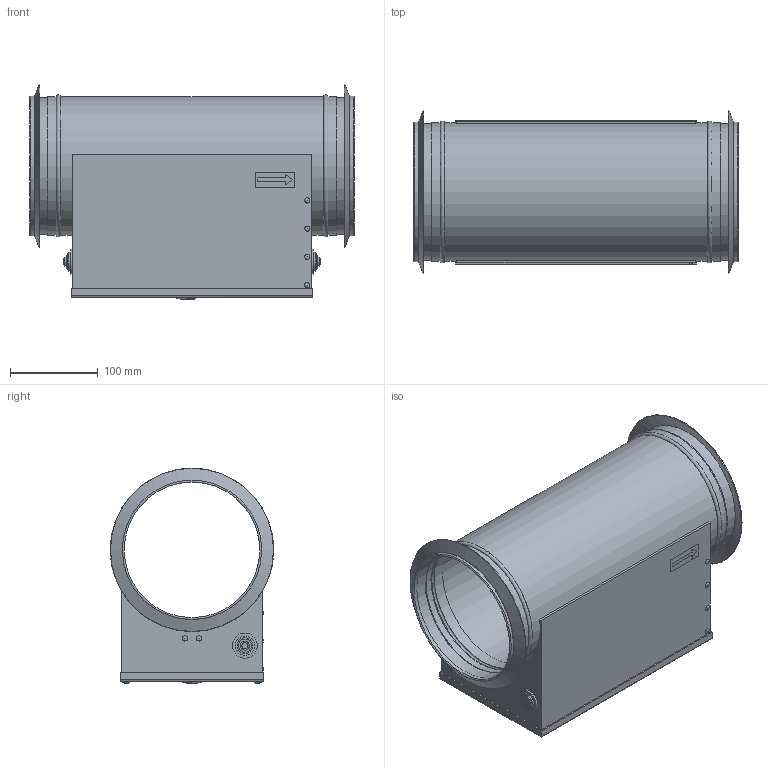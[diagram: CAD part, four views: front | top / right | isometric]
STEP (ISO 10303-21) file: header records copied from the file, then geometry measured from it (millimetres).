
FILE_DESCRIPTION(/* description */ (''),/* implementation_level */ '2;1');
FILE_NAME(/* name */ 'C:\WF Home\Thomas Mønsted\01 - Ventilation\Ventmatica\063274 - 230V Ø160 on_off _max. 670 watt.stp',/* time_stamp */ '2020-05-14T13:40:17+02:00',/* author */ ('3113thmo'),/* organization */ (''),/* preprocessor_version */ 'ST-DEVELOPER v16.13',/* originating_system */ 'Autodesk Inventor 2018',/* authorisation */ '');
FILE_SCHEMA (('AUTOMOTIVE_DESIGN { 1 0 10303 214 3 1 1 }'));
Length unit declared in the file: millimetre
Products named in the file (1): 063274 - 230V Ø160 on_off _max. 670 watt
Bounding box: 369.99 x 186.68 x 246.27 mm (x, y, z)
Volume: 4090899.6 mm3; surface area: 504918 mm2
Topology: 2 solids, 4 shells, 342 faces, 849 edges, 563 vertices
Faces by surface type: plane 196, bspline 74, cylinder 58, cone 6, torus 6, sphere 2
Full cylindrical faces by diameter (mm): 4 x2, 7 x2, 7.5 x2, 8.2 x2, 10 x1, 10.5 x2, 12 x3, 15 x4, 18 x2, 19 x2, 19.8 x2, 22 x2, 28.5 x2, 154.6 x2, 156 x2, 156.6 x3, 158 x5, 159 x2
Entity records: 12440 total; most frequent: CARTESIAN_POINT 4285, ORIENTED_EDGE 1568, DIRECTION 1524, EDGE_CURVE 784, AXIS2_PLACEMENT_3D 600, VERTEX_POINT 562, EDGE_LOOP 456, FACE_OUTER_BOUND 342
